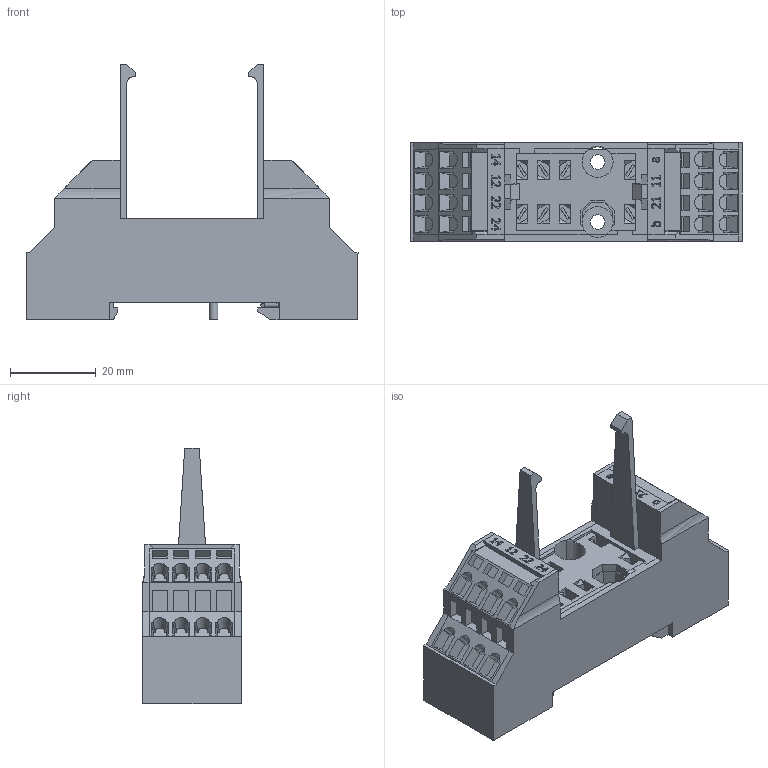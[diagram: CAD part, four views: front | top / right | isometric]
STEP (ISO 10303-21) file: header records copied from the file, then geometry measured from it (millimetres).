
FILE_DESCRIPTION((''),'2;1');
FILE_NAME('K:\TB\Bibliotheek\Inventor\Relais voeten\V17 voet\V17 voet.stp','2008-03-27T11:05:32',('Arnoud'),(''),'Autodesk Inventor 2008','Autodesk Inventor 2008','');
FILE_SCHEMA(('AUTOMOTIVE_DESIGN { 1 0 10303 214 1 1 1 1 }'));
Length unit declared in the file: millimetre
Products named in the file (1): V17
Bounding box: 77.3 x 23 x 59.6 mm (x, y, z)
Volume: 31538.8 mm3; surface area: 20369.8 mm2
Topology: 2 solids, 2 shells, 1008 faces, 2774 edges, 1800 vertices
Faces by surface type: plane 623, bspline 343, cylinder 23, cone 16, torus 3
Full cylindrical faces by diameter (mm): 1 x2, 3.4 x1
Entity records: 33275 total; most frequent: CARTESIAN_POINT 7859, ORIENTED_EDGE 5530, DIRECTION 4039, EDGE_CURVE 2765, VECTOR 2487, LINE 2487, VERTEX_POINT 1798, EDGE_LOOP 1092
